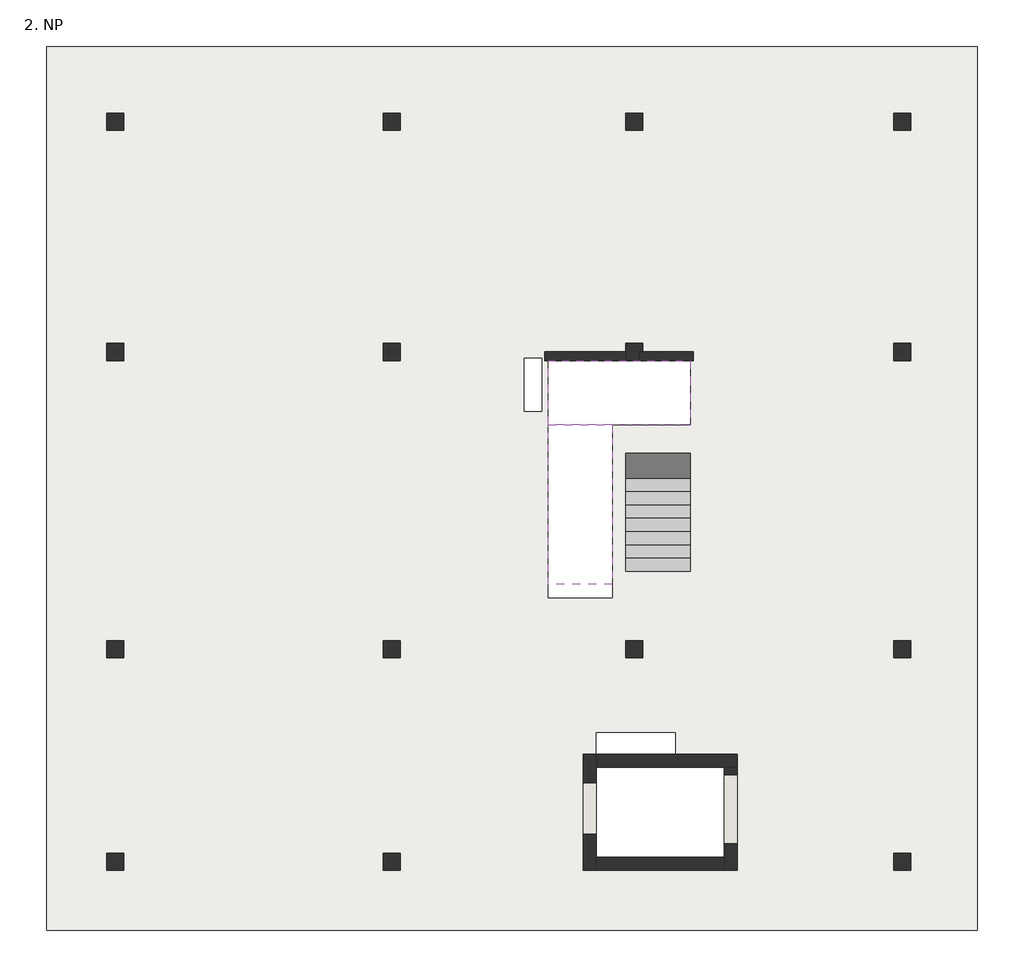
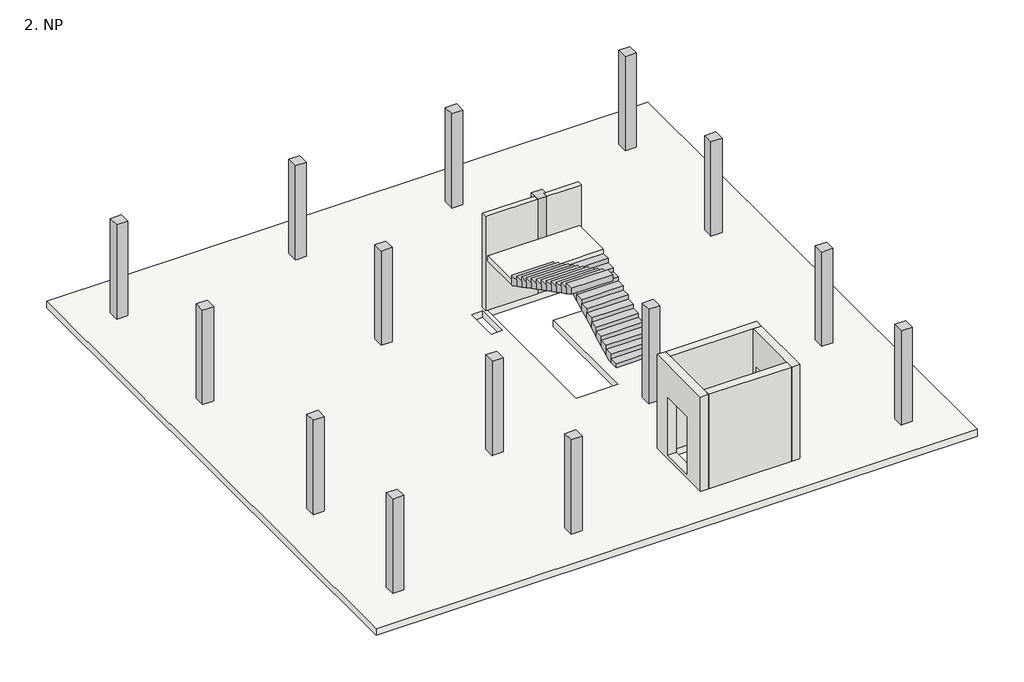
# One storey: 15 columns, 6 walls, 2 slabs, 2 stair flights.
"""IFC4 building model written with IfcOpenShell, lengths in millimetres."""

from ifc_helpers import new_model, si_unit, frame, origin, place, context, project, spatial, polyline, outline, extrude, faceted_brep, element, save

model = new_model("IFC4")

# Units and contexts
model_context = context("Model", 3, world=origin())
ifc_project = project(units=[si_unit("LENGTHUNIT", "METRE", prefix="MILLI")], contexts=[model_context])

# Site, building, storey
site = spatial("IfcSite", under=ifc_project)
building = spatial("IfcBuilding", under=site)
storey = spatial("IfcBuildingStorey", under=building, Name="2. NP", Elevation=5150.0)

# Columns
placement = place(None, origin())
element("IfcColumn", 1, ObjectType="K_Sloup obdélník : 400 x 400 mm", at=placement, inside=storey, context=model_context, shape_type="SweptSolid", body=[
    extrude(outline(polyline([(-9527.9308562, -5396.7473289), (-9527.9308562, -5796.7473289), (-9927.9308562, -5796.7473289), (-9927.9308562, -5396.7473289), (-9527.9308562, -5396.7473289)])), frame((0.0, 0.0, 5000.0), z_axis=(0.0, 0.0, 1.0), x_axis=(1.0, 0.0, 0.0)), (0.0, 0.0, 1.0), 3600.0),
])
element("IfcColumn", 2, ObjectType="K_Sloup obdélník : 400 x 400 mm", at=placement, inside=storey, context=model_context, shape_type="SweptSolid", body=[
    extrude(outline(polyline([(-3077.9308562, -5396.7473289), (-3077.9308562, -5796.7473289), (-3477.9308562, -5796.7473289), (-3477.9308562, -5396.7473289), (-3077.9308562, -5396.7473289)])), frame((0.0, 0.0, 5000.0), z_axis=(0.0, 0.0, 1.0), x_axis=(1.0, 0.0, 0.0)), (0.0, 0.0, 1.0), 3600.0),
])
element("IfcColumn", 3, ObjectType="K_Sloup obdélník : 400 x 400 mm", at=placement, inside=storey, context=model_context, shape_type="SweptSolid", body=[
    extrude(outline(polyline([(8822.0691438, -5396.7473289), (8822.0691438, -5796.7473289), (8422.0691438, -5796.7473289), (8422.0691438, -5396.7473289), (8822.0691438, -5396.7473289)])), frame((0.0, 0.0, 5000.0), z_axis=(0.0, 0.0, 1.0), x_axis=(1.0, 0.0, 0.0)), (0.0, 0.0, 1.0), 3600.0),
])
element("IfcColumn", 4, ObjectType="K_Sloup obdélník : 400 x 400 mm", at=placement, inside=storey, context=model_context, shape_type="SweptSolid", body=[
    extrude(outline(polyline([(-9527.9308562, -446.7473314), (-9527.9308562, -846.7473314), (-9927.9308562, -846.7473314), (-9927.9308562, -446.7473314), (-9527.9308562, -446.7473314)])), frame((0.0, 0.0, 5000.0), z_axis=(0.0, 0.0, 1.0), x_axis=(1.0, 0.0, 0.0)), (0.0, 0.0, 1.0), 3600.0),
])
element("IfcColumn", 5, ObjectType="K_Sloup obdélník : 400 x 400 mm", at=placement, inside=storey, context=model_context, shape_type="SweptSolid", body=[
    extrude(outline(polyline([(-3077.9308562, -446.7473314), (-3077.9308562, -846.7473314), (-3477.9308562, -846.7473314), (-3477.9308562, -446.7473314), (-3077.9308562, -446.7473314)])), frame((0.0, 0.0, 5000.0), z_axis=(0.0, 0.0, 1.0), x_axis=(1.0, 0.0, 0.0)), (0.0, 0.0, 1.0), 3600.0),
])
element("IfcColumn", 6, ObjectType="K_Sloup obdélník : 400 x 400 mm", at=placement, inside=storey, context=model_context, shape_type="SweptSolid", body=[
    extrude(outline(polyline([(8822.0691438, -446.7473314), (8822.0691438, -846.7473314), (8422.0691438, -846.7473314), (8422.0691438, -446.7473314), (8822.0691438, -446.7473314)])), frame((0.0, 0.0, 5000.0), z_axis=(0.0, 0.0, 1.0), x_axis=(1.0, 0.0, 0.0)), (0.0, 0.0, 1.0), 3600.0),
])
element("IfcColumn", 7, ObjectType="K_Sloup obdélník : 400 x 400 mm", at=placement, inside=storey, context=model_context, shape_type="SweptSolid", body=[
    extrude(outline(polyline([(-9527.9308562, 6483.2526657), (-9527.9308562, 6083.2526657), (-9927.9308562, 6083.2526657), (-9927.9308562, 6483.2526657), (-9527.9308562, 6483.2526657)])), frame((0.0, 0.0, 5000.0), z_axis=(0.0, 0.0, 1.0), x_axis=(1.0, 0.0, 0.0)), (0.0, 0.0, 1.0), 3600.0),
])
element("IfcColumn", 8, ObjectType="K_Sloup obdélník : 400 x 400 mm", at=placement, inside=storey, context=model_context, shape_type="SweptSolid", body=[
    extrude(outline(polyline([(-3077.9308562, 6483.2526657), (-3077.9308562, 6083.2526657), (-3477.9308562, 6083.2526657), (-3477.9308562, 6483.2526657), (-3077.9308562, 6483.2526657)])), frame((0.0, 0.0, 5000.0), z_axis=(0.0, 0.0, 1.0), x_axis=(1.0, 0.0, 0.0)), (0.0, 0.0, 1.0), 3600.0),
])
element("IfcColumn", 9, ObjectType="K_Sloup obdélník : 400 x 400 mm", at=placement, inside=storey, context=model_context, shape_type="SweptSolid", body=[
    extrude(outline(polyline([(2572.0691438, 6483.2526657), (2572.0691438, 6083.2526657), (2172.0691438, 6083.2526657), (2172.0691438, 6483.2526657), (2572.0691438, 6483.2526657)])), frame((0.0, 0.0, 5000.0), z_axis=(0.0, 0.0, 1.0), x_axis=(1.0, 0.0, 0.0)), (0.0, 0.0, 1.0), 3600.0),
])
element("IfcColumn", 10, ObjectType="K_Sloup obdélník : 400 x 400 mm", at=placement, inside=storey, context=model_context, shape_type="SweptSolid", body=[
    extrude(outline(polyline([(8822.0691438, 6483.2526657), (8822.0691438, 6083.2526657), (8422.0691438, 6083.2526657), (8422.0691438, 6483.2526657), (8822.0691438, 6483.2526657)])), frame((0.0, 0.0, 5000.0), z_axis=(0.0, 0.0, 1.0), x_axis=(1.0, 0.0, 0.0)), (0.0, 0.0, 1.0), 3600.0),
])
element("IfcColumn", 11, ObjectType="K_Sloup obdélník : 400 x 400 mm", at=placement, inside=storey, context=model_context, shape_type="SweptSolid", body=[
    extrude(outline(polyline([(-9527.9308562, 11853.2526657), (-9527.9308562, 11453.2526657), (-9927.9308562, 11453.2526657), (-9927.9308562, 11853.2526657), (-9527.9308562, 11853.2526657)])), frame((0.0, 0.0, 5000.0), z_axis=(0.0, 0.0, 1.0), x_axis=(1.0, 0.0, 0.0)), (0.0, 0.0, 1.0), 3600.0),
])
element("IfcColumn", 12, ObjectType="K_Sloup obdélník : 400 x 400 mm", at=placement, inside=storey, context=model_context, shape_type="SweptSolid", body=[
    extrude(outline(polyline([(-3077.9308562, 11853.2526657), (-3077.9308562, 11453.2526657), (-3477.9308562, 11453.2526657), (-3477.9308562, 11853.2526657), (-3077.9308562, 11853.2526657)])), frame((0.0, 0.0, 5000.0), z_axis=(0.0, 0.0, 1.0), x_axis=(1.0, 0.0, 0.0)), (0.0, 0.0, 1.0), 3600.0),
])
element("IfcColumn", 13, ObjectType="K_Sloup obdélník : 400 x 400 mm", at=placement, inside=storey, context=model_context, shape_type="SweptSolid", body=[
    extrude(outline(polyline([(2572.0691438, 11853.2526657), (2572.0691438, 11453.2526657), (2172.0691438, 11453.2526657), (2172.0691438, 11853.2526657), (2572.0691438, 11853.2526657)])), frame((0.0, 0.0, 5000.0), z_axis=(0.0, 0.0, 1.0), x_axis=(1.0, 0.0, 0.0)), (0.0, 0.0, 1.0), 3600.0),
])
element("IfcColumn", 14, ObjectType="K_Sloup obdélník : 400 x 400 mm", at=placement, inside=storey, context=model_context, shape_type="SweptSolid", body=[
    extrude(outline(polyline([(8822.0691438, 11853.2526657), (8822.0691438, 11453.2526657), (8422.0691438, 11453.2526657), (8422.0691438, 11853.2526657), (8822.0691438, 11853.2526657)])), frame((0.0, 0.0, 5000.0), z_axis=(0.0, 0.0, 1.0), x_axis=(1.0, 0.0, 0.0)), (0.0, 0.0, 1.0), 3600.0),
])
element("IfcColumn", 15, ObjectType="K_Sloup obdélník : 400 x 400 mm", at=placement, inside=storey, context=model_context, shape_type="SweptSolid", body=[
    extrude(outline(polyline([(2572.0691438, -446.7473314), (2572.0691438, -846.7473314), (2172.0691438, -846.7473314), (2172.0691438, -446.7473314), (2572.0691438, -446.7473314)])), frame((0.0, 0.0, 5000.0), z_axis=(0.0, 0.0, 1.0), x_axis=(1.0, 0.0, 0.0)), (0.0, 0.0, 1.0), 3600.0),
])

# Slabs
element("IfcSlab", 16, ObjectType="Železobetnová stropní deska tl. 250 mm", at=placement, inside=storey, context=model_context, shape_type="SweptSolid", body=[
    extrude(outline(polyline([(10372.0691438, 13403.2526657), (10372.0691438, -7196.7473343), (-11327.9308562, -7196.7473343), (-11327.9308562, 13403.2526657), (10372.0691438, 13403.2526657)]), holes=[polyline([(1482.0691438, -5496.7473289), (4472.0691438, -5496.7473289), (4472.0691438, -3396.7473289), (1482.0691438, -3396.7473289), (1482.0691438, -5496.7473289)]), polyline([(362.0691438, 553.2526711), (1862.0691438, 553.2526711), (1862.0691438, 4583.2526711), (3672.0691438, 4583.2526711), (3672.0691438, 6083.2526755), (362.0691438, 6083.2526657), (362.0691438, 553.2526711)]), polyline([(-187.9308562, 4903.2526657), (212.0691438, 4903.2526657), (212.0691438, 6133.2526711), (-187.9308562, 6133.2526711), (-187.9308562, 4903.2526657)]), polyline([(1482.0691438, -3096.7473289), (3332.0691438, -3096.7473289), (3332.0691438, -2596.7473289), (1482.0691438, -2596.7473289), (1482.0691438, -3096.7473289)])]), frame((0.0, 0.0, 4750.0), z_axis=(0.0, 0.0, 1.0), x_axis=(1.0, 0.0, 0.0)), (0.0, 0.0, 1.0), 250.0),
])
element("IfcSlab", 17, ObjectType="200 mm", at=placement, inside=storey, context=model_context, shape_type="Brep", body=[
    faceted_brep([(2172.0691438, 4583.2526711, 7075.0), (3672.0691438, 4583.2526711, 7075.0), (3672.0691438, 4941.934107, 7075.0), (3672.0691438, 6083.2526711, 7075.0), (362.0691438, 6083.2526711, 7075.0), (362.0691438, 4583.2526711, 7075.0), (1862.0691438, 4583.2526711, 7075.0), (2172.0691438, 4583.2526711, 6875.0), (2172.0691438, 4583.2526711, 6689.3919989), (3672.0691438, 4583.2526711, 6689.3919989), (3672.0691438, 4583.2526711, 6914.5833333), (1862.0691438, 4583.2526711, 6875.0), (362.0691438, 4583.2526711, 6875.0), (362.0691438, 6083.2526711, 6875.0), (3672.0691438, 6083.2526711, 6875.0), (3672.0691438, 4941.934107, 6875.0), (2172.0691438, 4941.934107, 6875.0)], [[[0, 1, 2, 3, 4, 5, 6]], [[1, 0, 7, 8, 9, 10]], [[0, 6, 11, 7]], [[6, 5, 12, 11]], [[5, 4, 13, 12]], [[4, 3, 14, 13]], [[1, 10, 9, 15, 14, 3, 2]], [[15, 16, 7, 11, 12, 13, 14]], [[16, 15, 9, 8]], [[7, 16, 8]]]),
])

# Stair flights
element("IfcStairFlight", 18, ObjectType="200 mm", at=placement, inside=storey, context=model_context, shape_type="Brep", body=[
    faceted_brep([(2172.0691438, 1483.2526711, 5310.4166667), (2172.0691438, 1173.2526711, 5310.4166667), (3672.0691438, 1173.2526711, 5310.4166667), (3672.0691438, 1483.2526711, 5310.4166667), (3672.0691438, 1173.2526711, 5150.0), (3672.0691438, 1483.2526711, 5150.0), (2172.0691438, 1173.2526711, 5150.0), (2172.0691438, 1483.2526711, 5150.0), (2172.0691438, 1793.2526711, 5470.8333333), (2172.0691438, 1483.2526711, 5470.8333333), (3672.0691438, 1483.2526711, 5470.8333333), (3672.0691438, 1793.2526711, 5470.8333333), (3672.0691438, 1608.4276135, 5150.0), (3672.0691438, 1793.2526711, 5245.6419989), (2172.0691438, 1793.2526711, 5245.6419989), (2172.0691438, 1608.4276135, 5150.0), (2172.0691438, 2103.2526711, 5631.25), (2172.0691438, 1793.2526711, 5631.25), (3672.0691438, 1793.2526711, 5631.25), (3672.0691438, 2103.2526711, 5631.25), (3672.0691438, 2103.2526711, 5406.0586655), (2172.0691438, 2103.2526711, 5406.0586655), (2172.0691438, 2413.2526711, 5791.6666667), (2172.0691438, 2103.2526711, 5791.6666667), (3672.0691438, 2103.2526711, 5791.6666667), (3672.0691438, 2413.2526711, 5791.6666667), (3672.0691438, 2413.2526711, 5566.4753322), (2172.0691438, 2413.2526711, 5566.4753322), (2172.0691438, 2723.2526711, 5952.0833333), (2172.0691438, 2413.2526711, 5952.0833333), (3672.0691438, 2413.2526711, 5952.0833333), (3672.0691438, 2723.2526711, 5952.0833333), (3672.0691438, 2723.2526711, 5726.8919989), (2172.0691438, 2723.2526711, 5726.8919989), (2172.0691438, 3033.2526711, 6112.5), (2172.0691438, 2723.2526711, 6112.5), (3672.0691438, 2723.2526711, 6112.5), (3672.0691438, 3033.2526711, 6112.5), (3672.0691438, 3033.2526711, 5887.3086655), (2172.0691438, 3033.2526711, 5887.3086655), (2172.0691438, 3343.2526711, 6272.9166667), (2172.0691438, 3033.2526711, 6272.9166667), (3672.0691438, 3033.2526711, 6272.9166667), (3672.0691438, 3343.2526711, 6272.9166667), (3672.0691438, 3343.2526711, 6047.7253322), (2172.0691438, 3343.2526711, 6047.7253322), (2172.0691438, 3653.2526711, 6433.3333333), (2172.0691438, 3343.2526711, 6433.3333333), (3672.0691438, 3343.2526711, 6433.3333333), (3672.0691438, 3653.2526711, 6433.3333333), (3672.0691438, 3653.2526711, 6208.1419989), (2172.0691438, 3653.2526711, 6208.1419989), (2172.0691438, 3963.2526711, 6593.75), (2172.0691438, 3653.2526711, 6593.75), (3672.0691438, 3653.2526711, 6593.75), (3672.0691438, 3963.2526711, 6593.75), (3672.0691438, 3963.2526711, 6368.5586655), (2172.0691438, 3963.2526711, 6368.5586655), (2172.0691438, 4273.2526711, 6754.1666667), (2172.0691438, 3963.2526711, 6754.1666667), (3672.0691438, 3963.2526711, 6754.1666667), (3672.0691438, 4273.2526711, 6754.1666667), (3672.0691438, 4273.2526711, 6528.9753322), (2172.0691438, 4273.2526711, 6528.9753322), (2172.0691438, 4583.2526711, 6914.5833333), (2172.0691438, 4273.2526711, 6914.5833333), (3672.0691438, 4273.2526711, 6914.5833333), (3672.0691438, 4583.2526711, 6914.5833333), (3672.0691438, 4583.2526711, 6689.3919989), (2172.0691438, 4583.2526711, 6875.0), (2172.0691438, 4583.2526711, 6689.3919989)], [[[0, 1, 2, 3]], [[3, 2, 4, 5]], [[2, 1, 6, 4]], [[1, 0, 7, 6]], [[8, 9, 10, 11]], [[3, 5, 12, 13, 11, 10]], [[0, 3, 10, 9]], [[7, 0, 9, 8, 14, 15]], [[16, 17, 18, 19]], [[19, 18, 11, 13, 20]], [[8, 11, 18, 17]], [[17, 16, 21, 14, 8]], [[22, 23, 24, 25]], [[25, 24, 19, 20, 26]], [[16, 19, 24, 23]], [[23, 22, 27, 21, 16]], [[28, 29, 30, 31]], [[31, 30, 25, 26, 32]], [[22, 25, 30, 29]], [[29, 28, 33, 27, 22]], [[34, 35, 36, 37]], [[37, 36, 31, 32, 38]], [[28, 31, 36, 35]], [[35, 34, 39, 33, 28]], [[40, 41, 42, 43]], [[43, 42, 37, 38, 44]], [[34, 37, 42, 41]], [[41, 40, 45, 39, 34]], [[46, 47, 48, 49]], [[49, 48, 43, 44, 50]], [[40, 43, 48, 47]], [[47, 46, 51, 45, 40]], [[52, 53, 54, 55]], [[55, 54, 49, 50, 56]], [[46, 49, 54, 53]], [[53, 52, 57, 51, 46]], [[58, 59, 60, 61]], [[61, 60, 55, 56, 62]], [[52, 55, 60, 59]], [[59, 58, 63, 57, 52]], [[64, 65, 66, 67]], [[67, 66, 61, 62, 68]], [[58, 61, 66, 65]], [[65, 64, 69, 70, 63, 58]], [[64, 67, 68, 70, 69]], [[6, 7, 15, 12, 5, 4]], [[12, 15, 14, 21, 27, 33, 39, 45, 51, 57, 63, 70, 68, 62, 56, 50, 44, 38, 32, 26, 20, 13]]]),
])
element("IfcStairFlight", 19, ObjectType="200 mm", at=placement, inside=storey, context=model_context, shape_type="Brep", body=[
    faceted_brep([(1862.0691438, 4583.2526711, 7235.4166667), (362.0691438, 4583.2526711, 7235.4166667), (362.0691438, 4534.5712351, 7235.4166667), (362.0691438, 4273.2526711, 7235.4166667), (1862.0691438, 4273.2526711, 7235.4166667), (1862.0691438, 4534.5712351, 7235.4166667), (362.0691438, 4583.2526711, 7075.0), (362.0691438, 4583.2526711, 6875.0), (362.0691438, 4534.5712351, 6875.0), (362.0691438, 4273.2526711, 7010.2253322), (1862.0691438, 4583.2526711, 6875.0), (1862.0691438, 4273.2526711, 7010.2253322), (1862.0691438, 4534.5712351, 6875.0), (1862.0691438, 3963.2526711, 7395.8333333), (1862.0691438, 4273.2526711, 7395.8333333), (362.0691438, 4273.2526711, 7395.8333333), (362.0691438, 3963.2526711, 7395.8333333), (362.0691438, 3963.2526711, 7170.6419989), (1862.0691438, 3963.2526711, 7170.6419989), (1862.0691438, 3653.2526711, 7556.25), (1862.0691438, 3963.2526711, 7556.25), (362.0691438, 3963.2526711, 7556.25), (362.0691438, 3653.2526711, 7556.25), (362.0691438, 3653.2526711, 7331.0586655), (1862.0691438, 3653.2526711, 7331.0586655), (1862.0691438, 3343.2526711, 7716.6666667), (1862.0691438, 3653.2526711, 7716.6666667), (362.0691438, 3653.2526711, 7716.6666667), (362.0691438, 3343.2526711, 7716.6666667), (362.0691438, 3343.2526711, 7491.4753322), (1862.0691438, 3343.2526711, 7491.4753322), (1862.0691438, 3033.2526711, 7877.0833333), (1862.0691438, 3343.2526711, 7877.0833333), (362.0691438, 3343.2526711, 7877.0833333), (362.0691438, 3033.2526711, 7877.0833333), (362.0691438, 3033.2526711, 7651.8919989), (1862.0691438, 3033.2526711, 7651.8919989), (1862.0691438, 2723.2526711, 8037.5), (1862.0691438, 3033.2526711, 8037.5), (362.0691438, 3033.2526711, 8037.5), (362.0691438, 2723.2526711, 8037.5), (362.0691438, 2723.2526711, 7812.3086655), (1862.0691438, 2723.2526711, 7812.3086655), (1862.0691438, 2413.2526711, 8197.9166667), (1862.0691438, 2723.2526711, 8197.9166667), (362.0691438, 2723.2526711, 8197.9166667), (362.0691438, 2413.2526711, 8197.9166667), (362.0691438, 2413.2526711, 7972.7253322), (1862.0691438, 2413.2526711, 7972.7253322), (1862.0691438, 2103.2526711, 8358.3333333), (1862.0691438, 2413.2526711, 8358.3333333), (362.0691438, 2413.2526711, 8358.3333333), (362.0691438, 2103.2526711, 8358.3333333), (362.0691438, 2103.2526711, 8133.1419989), (1862.0691438, 2103.2526711, 8133.1419989), (1862.0691438, 1793.2526711, 8518.75), (1862.0691438, 2103.2526711, 8518.75), (362.0691438, 2103.2526711, 8518.75), (362.0691438, 1793.2526711, 8518.75), (362.0691438, 1793.2526711, 8293.5586655), (1862.0691438, 1793.2526711, 8293.5586655), (1862.0691438, 1483.2526711, 8679.1666667), (1862.0691438, 1793.2526711, 8679.1666667), (362.0691438, 1793.2526711, 8679.1666667), (362.0691438, 1483.2526711, 8679.1666667), (362.0691438, 1483.2526711, 8453.9753322), (1862.0691438, 1483.2526711, 8453.9753322), (1862.0691438, 1173.2526711, 8839.5833333), (1862.0691438, 1483.2526711, 8839.5833333), (362.0691438, 1483.2526711, 8839.5833333), (362.0691438, 1173.2526711, 8839.5833333), (362.0691438, 1173.2526711, 8614.3919989), (1862.0691438, 1173.2526711, 8614.3919989), (1862.0691438, 863.2526711, 9000.0), (1862.0691438, 1173.2526711, 9000.0), (362.0691438, 1173.2526711, 9000.0), (362.0691438, 863.2526711, 9000.0), (362.0691438, 863.2526711, 8774.8086655), (1862.0691438, 863.2526711, 8774.8086655)], [[[0, 1, 2, 3, 4, 5]], [[1, 6, 7, 8, 9, 3, 2]], [[1, 0, 10, 7, 6]], [[4, 11, 12, 10, 0, 5]], [[13, 14, 15, 16]], [[16, 15, 3, 9, 17]], [[15, 14, 4, 3]], [[14, 13, 18, 11, 4]], [[19, 20, 21, 22]], [[22, 21, 16, 17, 23]], [[21, 20, 13, 16]], [[20, 19, 24, 18, 13]], [[25, 26, 27, 28]], [[28, 27, 22, 23, 29]], [[27, 26, 19, 22]], [[26, 25, 30, 24, 19]], [[31, 32, 33, 34]], [[34, 33, 28, 29, 35]], [[33, 32, 25, 28]], [[32, 31, 36, 30, 25]], [[37, 38, 39, 40]], [[40, 39, 34, 35, 41]], [[39, 38, 31, 34]], [[38, 37, 42, 36, 31]], [[43, 44, 45, 46]], [[46, 45, 40, 41, 47]], [[45, 44, 37, 40]], [[44, 43, 48, 42, 37]], [[49, 50, 51, 52]], [[52, 51, 46, 47, 53]], [[51, 50, 43, 46]], [[50, 49, 54, 48, 43]], [[55, 56, 57, 58]], [[58, 57, 52, 53, 59]], [[57, 56, 49, 52]], [[56, 55, 60, 54, 49]], [[61, 62, 63, 64]], [[64, 63, 58, 59, 65]], [[63, 62, 55, 58]], [[62, 61, 66, 60, 55]], [[67, 68, 69, 70]], [[70, 69, 64, 65, 71]], [[69, 68, 61, 64]], [[68, 67, 72, 66, 61]], [[73, 74, 75, 76]], [[76, 75, 70, 71, 77]], [[75, 74, 67, 70]], [[74, 73, 78, 72, 67]], [[73, 76, 77, 78]], [[8, 12, 11, 18, 24, 30, 36, 42, 48, 54, 60, 66, 72, 78, 77, 71, 65, 59, 53, 47, 41, 35, 29, 23, 17, 9]], [[12, 8, 7, 10]]]),
])

# Walls
element("IfcWall", 20, ObjectType="Železobetonové zdivo tl. 300 mm", at=placement, inside=storey, context=model_context, shape_type="Brep", body=[
    faceted_brep([(1482.0691438, -3096.7473289, 5000.0), (1482.0691438, -3096.7473289, 8600.0), (1482.0691438, -3396.7473289, 8600.0), (1482.0691438, -5496.7473289, 8600.0), (1482.0691438, -5796.7473289, 8600.0), (1482.0691438, -5796.7473289, 5000.0), (1482.0691438, -5496.7473289, 5000.0), (1482.0691438, -3396.7473289, 5000.0), (1482.0691438, -4956.7473289, 5150.0), (1482.0691438, -4956.7473289, 7350.0), (1482.0691438, -3756.7473289, 7350.0), (1482.0691438, -3756.7473289, 5150.0), (1182.0691438, -3096.7473289, 5000.0), (1182.0691438, -5796.7473289, 5000.0), (1182.0691438, -5796.7473289, 8600.0), (1182.0691438, -3096.7473289, 8600.0), (1182.0691438, -4956.7473289, 7350.0), (1182.0691438, -4956.7473289, 5150.0), (1182.0691438, -3756.7473289, 5150.0), (1182.0691438, -3756.7473289, 7350.0)], [[[0, 1, 2, 3, 4, 5, 6, 7], [8, 9, 10, 11]], [[12, 13, 14, 15], [16, 17, 18, 19]], [[1, 0, 12, 15]], [[8, 17, 16, 9]], [[9, 16, 19, 10]], [[17, 8, 11, 18]], [[18, 11, 10, 19]], [[5, 4, 14, 13]], [[15, 14, 4, 3, 2, 1]], [[13, 12, 0, 7, 6, 5]]]),
])
element("IfcWall", 21, ObjectType="Železobetonové zdivo tl. 300 mm", at=placement, inside=storey, context=model_context, shape_type="Brep", body=[
    faceted_brep([(1482.0691438, -3396.7473289, 5000.0), (4472.0691438, -3396.7473289, 5000.0), (4772.0691438, -3396.7473289, 5000.0), (4772.0691438, -3396.7473289, 8600.0), (4472.0691438, -3396.7473289, 8600.0), (1482.0691438, -3396.7473289, 8600.0), (1482.0691438, -3096.7473289, 5000.0), (1482.0691438, -3096.7473289, 8600.0), (3332.0691438, -3096.7473289, 8600.0), (4772.0691438, -3096.7473289, 8600.0), (4772.0691438, -3096.7473289, 5000.0), (3332.0691438, -3096.7473289, 5000.0)], [[[0, 1, 2, 3, 4, 5]], [[6, 7, 8, 9, 10, 11]], [[0, 5, 7, 6]], [[5, 4, 3, 9, 8, 7]], [[3, 2, 10, 9]], [[2, 1, 0, 6, 11, 10]]]),
])
element("IfcWall", 22, ObjectType="Železobetonové zdivo tl. 300 mm", at=placement, inside=storey, context=model_context, shape_type="Brep", body=[
    faceted_brep([(4472.0691438, -5796.7473289, 8600.0), (4472.0691438, -5496.7473289, 8600.0), (4472.0691438, -3396.7473289, 8600.0), (4472.0691438, -3396.7473289, 5000.0), (4472.0691438, -5496.7473289, 5000.0), (4472.0691438, -5796.7473289, 5000.0), (4472.0691438, -5176.7473289, 7250.0), (4472.0691438, -5176.7473289, 5150.0), (4472.0691438, -3576.7473289, 5150.0), (4472.0691438, -3576.7473289, 7250.0), (4772.0691438, -5796.7473289, 5000.0), (4772.0691438, -3396.7473289, 5000.0), (4772.0691438, -3396.7473289, 8600.0), (4772.0691438, -5796.7473289, 8600.0), (4772.0691438, -5176.7473289, 5150.0), (4772.0691438, -5176.7473289, 7250.0), (4772.0691438, -3576.7473289, 7250.0), (4772.0691438, -3576.7473289, 5150.0)], [[[0, 1, 2, 3, 4, 5], [6, 7, 8, 9]], [[10, 11, 12, 13], [14, 15, 16, 17]], [[13, 12, 2, 1, 0]], [[0, 5, 10, 13]], [[3, 2, 12, 11]], [[14, 7, 6, 15]], [[15, 6, 9, 16]], [[7, 14, 17, 8]], [[8, 17, 16, 9]], [[11, 10, 5, 4, 3]]]),
])
element("IfcWall", 23, ObjectType="Železobetonové zdivo tl. 200 mm", at=placement, inside=storey, context=model_context, shape_type="Brep", body=[
    faceted_brep([(2497.0691438, 6083.2526711, 5000.0), (3672.0691438, 6083.2526711, 5000.0), (3747.0691438, 6083.2526711, 5000.0), (3747.0691438, 6083.2526711, 8600.0), (3672.0691438, 6083.2526711, 8600.0), (2497.0691438, 6083.2526711, 8600.0), (2497.0691438, 6283.2526711, 5000.0), (2497.0691438, 6283.2526711, 8600.0), (3747.0691438, 6283.2526711, 8600.0), (3747.0691438, 6283.2526711, 5000.0)], [[[0, 1, 2, 3, 4, 5]], [[6, 7, 8, 9]], [[3, 2, 9, 8]], [[0, 5, 7, 6]], [[5, 4, 3, 8, 7]], [[2, 1, 0, 6, 9]]]),
])
element("IfcWall", 24, ObjectType="Železobetonové zdivo tl. 300 mm", at=placement, inside=storey, context=model_context, shape_type="Brep", body=[
    faceted_brep([(4472.0691438, -5496.7473289, 5000.0), (1482.0691438, -5496.7473289, 5000.0), (1482.0691438, -5496.7473289, 8600.0), (4472.0691438, -5496.7473289, 8600.0), (4472.0691438, -5796.7473289, 5000.0), (4472.0691438, -5796.7473289, 8600.0), (2472.4108801, -5796.7473289, 8600.0), (1482.0691438, -5796.7473289, 8600.0), (1482.0691438, -5796.7473289, 5000.0)], [[[0, 1, 2, 3]], [[4, 5, 6, 7, 8]], [[3, 2, 7, 6, 5]], [[0, 3, 5, 4]], [[2, 1, 8, 7]], [[1, 0, 4, 8]]]),
])
element("IfcWall", 25, ObjectType="Železobetonové zdivo tl. 200 mm", at=placement, inside=storey, context=model_context, shape_type="Brep", body=[
    faceted_brep([(287.0691438, 6083.2526711, 5000.0), (2172.0691438, 6083.2526711, 5000.0), (2172.0691438, 6083.2526711, 8600.0), (362.0691438, 6083.2526711, 8600.0), (287.0691438, 6083.2526711, 8600.0), (287.0691438, 6283.2526711, 5000.0), (287.0691438, 6283.2526711, 8600.0), (2172.0691438, 6283.2526711, 8600.0), (2172.0691438, 6283.2526711, 5000.0)], [[[0, 1, 2, 3, 4]], [[5, 6, 7, 8]], [[1, 0, 5, 8]], [[2, 1, 8, 7]], [[0, 4, 6, 5]], [[4, 3, 2, 7, 6]]]),
])

save(model, "model.ifc")
